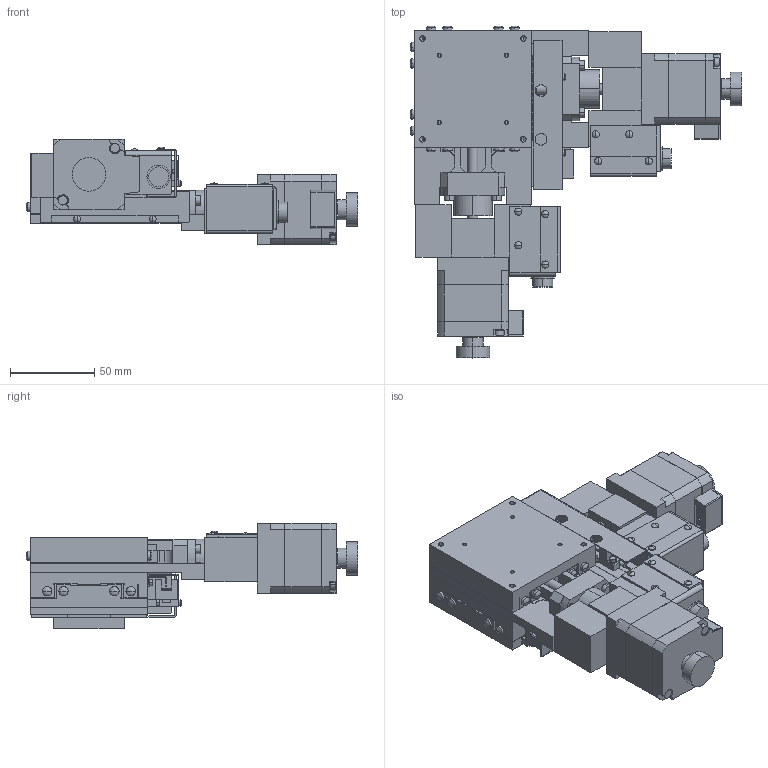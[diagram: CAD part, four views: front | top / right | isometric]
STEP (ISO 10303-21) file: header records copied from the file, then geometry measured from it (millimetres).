
FILE_DESCRIPTION(('STEP AP203'),'1');
FILE_NAME('C:/3D-trans/KY0725-RG5.step','2020-01-24T01:15:18',(' '),(' '),'Spatial InterOp 3D',' ',' ');
FILE_SCHEMA(('CONFIG_CONTROL_DESIGN'));
Length unit declared in the file: millimetre
Products named in the file (8): 1; 2; 3; 4; 5; 6; 7; 8
Bounding box: 197.4 x 197.4 x 63 mm (x, y, z)
Volume: 535294.6 mm3; surface area: 171063.1 mm2
Topology: 8 solids, 8 shells, 1609 faces, 4397 edges, 2836 vertices
Faces by surface type: plane 938, cylinder 591, sphere 56, cone 24
Entity records: 51493 total; most frequent: CARTESIAN_POINT 9184, DIRECTION 9001, ORIENTED_EDGE 8650, EDGE_CURVE 4325, AXIS2_PLACEMENT_3D 3085, VERTEX_POINT 2836, LINE 2831, VECTOR 2831
